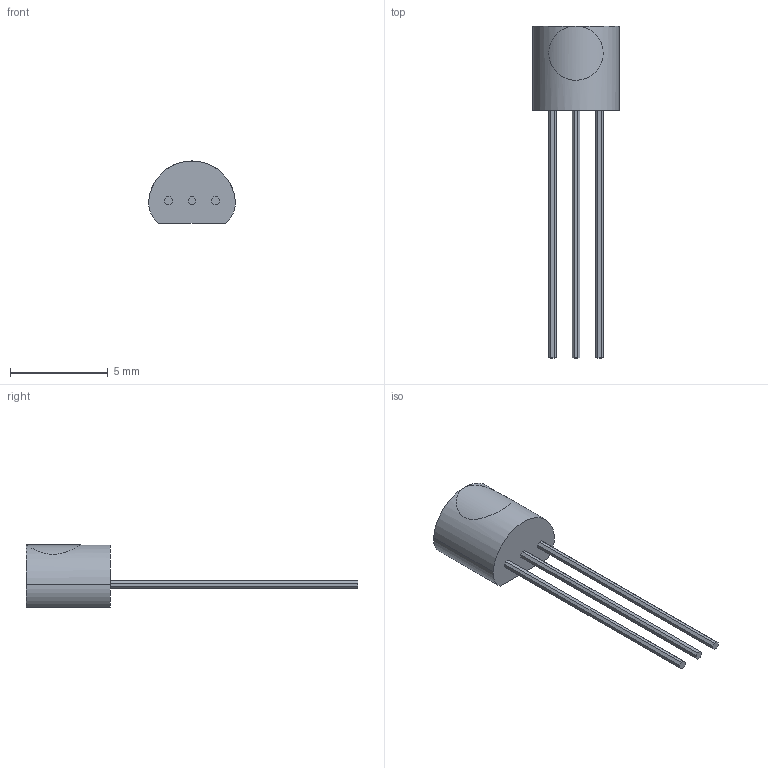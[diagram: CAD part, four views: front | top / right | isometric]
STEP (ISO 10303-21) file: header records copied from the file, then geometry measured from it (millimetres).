
FILE_DESCRIPTION (( 'STEP AP214' ), '1' );
FILE_NAME ('2N3906BU.STEP', '2021-06-04T09:05:01', ( '' ), ( '' ), 'SwSTEP 2.0', 'SolidWorks 2018', '' );
FILE_SCHEMA (( 'AUTOMOTIVE_DESIGN' ));
Length unit declared in the file: millimetre
Products named in the file (1): 2N3906BU
Bounding box: 4.44 x 17.02 x 3.18 mm (x, y, z)
Volume: 55.6 mm3; surface area: 129 mm2
Topology: 4 solids, 4 shells, 37 faces, 87 edges, 58 vertices
Faces by surface type: plane 33, cylinder 4
Entity records: 1523 total; most frequent: CARTESIAN_POINT 227, ORIENTED_EDGE 174, DIRECTION 168, EDGE_CURVE 87, LINE 78, VECTOR 78, VERTEX_POINT 58, AXIS2_PLACEMENT_3D 45
